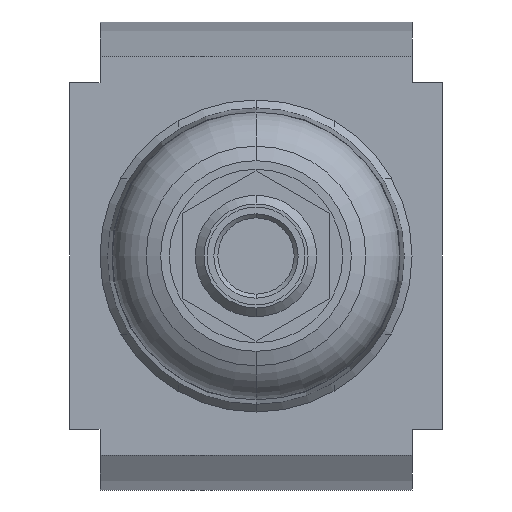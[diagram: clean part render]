
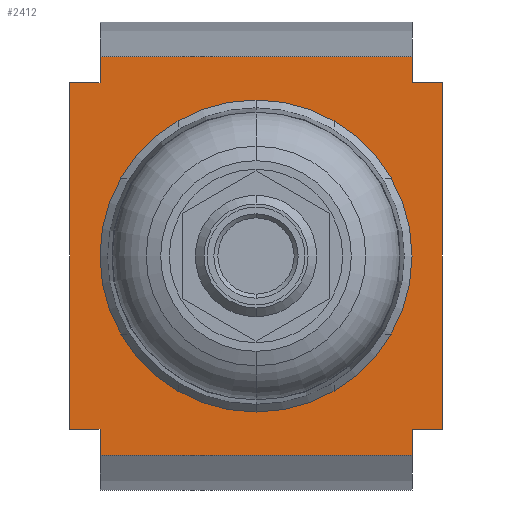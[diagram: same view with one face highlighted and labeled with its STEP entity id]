
A CAD part, front view. The second image highlights one B-rep face of the part: STEP entity #2412.
In plain terms, the highlighted planar face has unit normal (0, -1, 0).
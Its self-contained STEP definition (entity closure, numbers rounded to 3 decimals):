
#30=DIRECTION('',(0.,0.,-1.));
#31=VECTOR('',#30,3.);
#32=CARTESIAN_POINT('',(-18.,-25.,-20.));
#33=LINE('',#32,#31);
#64=DIRECTION('',(0.,0.,-1.));
#65=VECTOR('',#64,3.);
#66=CARTESIAN_POINT('',(-18.,-25.,23.));
#67=LINE('',#66,#65);
#136=DIRECTION('',(0.,0.,-1.));
#137=VECTOR('',#136,3.);
#138=CARTESIAN_POINT('',(18.,-25.,23.));
#139=LINE('',#138,#137);
#170=DIRECTION('',(0.,0.,-1.));
#171=VECTOR('',#170,3.);
#172=CARTESIAN_POINT('',(18.,-25.,-20.));
#173=LINE('',#172,#171);
#203=DIRECTION('',(1.,0.,0.));
#204=VECTOR('',#203,3.5);
#205=CARTESIAN_POINT('',(18.,-25.,20.));
#206=LINE('',#205,#204);
#243=DIRECTION('',(1.,0.,0.));
#244=VECTOR('',#243,3.5);
#245=CARTESIAN_POINT('',(-21.5,-25.,20.));
#246=LINE('',#245,#244);
#494=DIRECTION('',(1.,0.,0.));
#495=VECTOR('',#494,3.5);
#496=CARTESIAN_POINT('',(18.,-25.,-20.));
#497=LINE('',#496,#495);
#560=DIRECTION('',(1.,0.,0.));
#561=VECTOR('',#560,3.5);
#562=CARTESIAN_POINT('',(-21.5,-25.,-20.));
#563=LINE('',#562,#561);
#722=DIRECTION('',(0.,0.,1.));
#723=VECTOR('',#722,40.);
#724=CARTESIAN_POINT('',(21.5,-25.,-20.));
#725=LINE('',#724,#723);
#726=DIRECTION('',(0.,0.,1.));
#727=VECTOR('',#726,40.);
#728=CARTESIAN_POINT('',(-21.5,-25.,-20.));
#729=LINE('',#728,#727);
#730=DIRECTION('',(1.,0.,0.));
#731=VECTOR('',#730,36.);
#732=CARTESIAN_POINT('',(-18.,-25.,23.));
#733=LINE('',#732,#731);
#734=CARTESIAN_POINT('',(0.,-25.,0.));
#735=DIRECTION('',(0.,-1.,0.));
#736=DIRECTION('',(0.866,0.,-0.5));
#737=AXIS2_PLACEMENT_3D('',#734,#735,#736);
#739=DIRECTION('',(1.,0.,0.));
#740=VECTOR('',#739,1.166);
#741=CARTESIAN_POINT('',(14.422,-25.,9.));
#742=LINE('',#741,#740);
#743=CARTESIAN_POINT('',(0.,-25.,0.));
#744=DIRECTION('',(0.,1.,0.));
#745=DIRECTION('',(0.529,0.,0.848));
#746=AXIS2_PLACEMENT_3D('',#743,#744,#745);
#748=DIRECTION('',(0.,0.,-1.));
#749=VECTOR('',#748,1.166);
#750=CARTESIAN_POINT('',(9.,-25.,15.588));
#751=LINE('',#750,#749);
#752=CARTESIAN_POINT('',(0.,-25.,0.));
#753=DIRECTION('',(0.,-1.,0.));
#754=DIRECTION('',(0.5,0.,0.866));
#755=AXIS2_PLACEMENT_3D('',#752,#753,#754);
#757=CARTESIAN_POINT('',(0.,-25.,0.));
#758=DIRECTION('',(0.,-1.,0.));
#759=DIRECTION('',(0.,0.,1.));
#760=AXIS2_PLACEMENT_3D('',#757,#758,#759);
#762=DIRECTION('',(0.,0.,1.));
#763=VECTOR('',#762,1.166);
#764=CARTESIAN_POINT('',(-9.,-25.,14.422));
#765=LINE('',#764,#763);
#766=CARTESIAN_POINT('',(0.,-25.,0.));
#767=DIRECTION('',(0.,1.,0.));
#768=DIRECTION('',(-0.848,0.,0.529));
#769=AXIS2_PLACEMENT_3D('',#766,#767,#768);
#771=DIRECTION('',(1.,0.,0.));
#772=VECTOR('',#771,1.166);
#773=CARTESIAN_POINT('',(-15.588,-25.,9.));
#774=LINE('',#773,#772);
#775=CARTESIAN_POINT('',(0.,-25.,0.));
#776=DIRECTION('',(0.,-1.,0.));
#777=DIRECTION('',(-0.866,0.,0.5));
#778=AXIS2_PLACEMENT_3D('',#775,#776,#777);
#780=DIRECTION('',(-1.,0.,0.));
#781=VECTOR('',#780,1.166);
#782=CARTESIAN_POINT('',(-14.422,-25.,-9.));
#783=LINE('',#782,#781);
#784=CARTESIAN_POINT('',(0.,-25.,0.));
#785=DIRECTION('',(0.,1.,0.));
#786=DIRECTION('',(-0.529,0.,-0.848));
#787=AXIS2_PLACEMENT_3D('',#784,#785,#786);
#789=DIRECTION('',(0.,0.,1.));
#790=VECTOR('',#789,1.166);
#791=CARTESIAN_POINT('',(-9.,-25.,-15.588));
#792=LINE('',#791,#790);
#793=CARTESIAN_POINT('',(0.,-25.,0.));
#794=DIRECTION('',(0.,-1.,0.));
#795=DIRECTION('',(-0.5,0.,-0.866));
#796=AXIS2_PLACEMENT_3D('',#793,#794,#795);
#798=CARTESIAN_POINT('',(0.,-25.,0.));
#799=DIRECTION('',(0.,-1.,0.));
#800=DIRECTION('',(0.,0.,-1.));
#801=AXIS2_PLACEMENT_3D('',#798,#799,#800);
#803=DIRECTION('',(0.,0.,-1.));
#804=VECTOR('',#803,1.166);
#805=CARTESIAN_POINT('',(9.,-25.,-14.422));
#806=LINE('',#805,#804);
#807=CARTESIAN_POINT('',(0.,-25.,0.));
#808=DIRECTION('',(0.,1.,0.));
#809=DIRECTION('',(0.848,0.,-0.529));
#810=AXIS2_PLACEMENT_3D('',#807,#808,#809);
#812=DIRECTION('',(-1.,0.,0.));
#813=VECTOR('',#812,1.166);
#814=CARTESIAN_POINT('',(15.588,-25.,-9.));
#815=LINE('',#814,#813);
#820=DIRECTION('',(1.,0.,0.));
#821=VECTOR('',#820,36.);
#822=CARTESIAN_POINT('',(-18.,-25.,-23.));
#823=LINE('',#822,#821);
#1262=CARTESIAN_POINT('',(-18.,-25.,23.));
#1263=CARTESIAN_POINT('',(18.,-25.,23.));
#1264=VERTEX_POINT('',#1262);
#1265=VERTEX_POINT('',#1263);
#1266=CARTESIAN_POINT('',(-18.,-25.,-23.));
#1267=CARTESIAN_POINT('',(18.,-25.,-23.));
#1268=VERTEX_POINT('',#1266);
#1269=VERTEX_POINT('',#1267);
#1280=CARTESIAN_POINT('',(-21.5,-25.,-20.));
#1281=VERTEX_POINT('',#1280);
#1282=CARTESIAN_POINT('',(21.5,-25.,-20.));
#1284=VERTEX_POINT('',#1282);
#1304=CARTESIAN_POINT('',(-21.5,-25.,20.));
#1305=VERTEX_POINT('',#1304);
#1306=CARTESIAN_POINT('',(21.5,-25.,20.));
#1308=VERTEX_POINT('',#1306);
#1318=CARTESIAN_POINT('',(-18.,-25.,20.));
#1319=VERTEX_POINT('',#1318);
#1320=CARTESIAN_POINT('',(18.,-25.,20.));
#1321=VERTEX_POINT('',#1320);
#1322=CARTESIAN_POINT('',(-18.,-25.,-20.));
#1323=VERTEX_POINT('',#1322);
#1324=CARTESIAN_POINT('',(18.,-25.,-20.));
#1325=VERTEX_POINT('',#1324);
#1586=CARTESIAN_POINT('',(0.,-25.,18.));
#1587=VERTEX_POINT('',#1586);
#1588=CARTESIAN_POINT('',(0.,-25.,-18.));
#1589=VERTEX_POINT('',#1588);
#1590=CARTESIAN_POINT('',(-9.,-25.,-14.422));
#1591=CARTESIAN_POINT('',(-14.422,-25.,-9.));
#1592=VERTEX_POINT('',#1590);
#1593=VERTEX_POINT('',#1591);
#1594=CARTESIAN_POINT('',(-14.422,-25.,9.));
#1595=CARTESIAN_POINT('',(-9.,-25.,14.422));
#1596=VERTEX_POINT('',#1594);
#1597=VERTEX_POINT('',#1595);
#1598=CARTESIAN_POINT('',(14.422,-25.,-9.));
#1599=CARTESIAN_POINT('',(9.,-25.,-14.422));
#1600=VERTEX_POINT('',#1598);
#1601=VERTEX_POINT('',#1599);
#1602=CARTESIAN_POINT('',(9.,-25.,14.422));
#1603=CARTESIAN_POINT('',(14.422,-25.,9.));
#1604=VERTEX_POINT('',#1602);
#1605=VERTEX_POINT('',#1603);
#1623=CARTESIAN_POINT('',(-9.,-25.,-15.588));
#1625=VERTEX_POINT('',#1623);
#1627=CARTESIAN_POINT('',(-15.588,-25.,-9.));
#1629=VERTEX_POINT('',#1627);
#1631=CARTESIAN_POINT('',(-9.,-25.,15.588));
#1633=VERTEX_POINT('',#1631);
#1635=CARTESIAN_POINT('',(-15.588,-25.,9.));
#1637=VERTEX_POINT('',#1635);
#1639=CARTESIAN_POINT('',(9.,-25.,-15.588));
#1641=VERTEX_POINT('',#1639);
#1643=CARTESIAN_POINT('',(15.588,-25.,-9.));
#1645=VERTEX_POINT('',#1643);
#1647=CARTESIAN_POINT('',(15.588,-25.,9.));
#1649=VERTEX_POINT('',#1647);
#1651=CARTESIAN_POINT('',(9.,-25.,15.588));
#1653=VERTEX_POINT('',#1651);
#2352=CARTESIAN_POINT('',(-18.,-25.,23.));
#2353=DIRECTION('',(0.,-1.,0.));
#2354=DIRECTION('',(0.,0.,-1.));
#2355=AXIS2_PLACEMENT_3D('',#2352,#2353,#2354);
#2356=PLANE('',#2355);
#2357=ORIENTED_EDGE('',*,*,#1797,.T.);
#2358=ORIENTED_EDGE('',*,*,#1849,.T.);
#2359=ORIENTED_EDGE('',*,*,#2345,.F.);
#2360=ORIENTED_EDGE('',*,*,#2137,.F.);
#2361=ORIENTED_EDGE('',*,*,#1820,.T.);
#2363=ORIENTED_EDGE('',*,*,#2362,.F.);
#2364=ORIENTED_EDGE('',*,*,#1673,.F.);
#2365=ORIENTED_EDGE('',*,*,#2190,.F.);
#2367=ORIENTED_EDGE('',*,*,#2366,.T.);
#2368=ORIENTED_EDGE('',*,*,#1895,.T.);
#2369=ORIENTED_EDGE('',*,*,#1697,.F.);
#2371=ORIENTED_EDGE('',*,*,#2370,.T.);
#2372=EDGE_LOOP('',(#2357,#2358,#2359,#2360,#2361,#2363,#2364,#2365,#2367,#2368,
#2369,#2371));
#2373=FACE_OUTER_BOUND('',#2372,.F.);
#2375=ORIENTED_EDGE('',*,*,#2374,.T.);
#2377=ORIENTED_EDGE('',*,*,#2376,.F.);
#2379=ORIENTED_EDGE('',*,*,#2378,.F.);
#2381=ORIENTED_EDGE('',*,*,#2380,.F.);
#2383=ORIENTED_EDGE('',*,*,#2382,.T.);
#2385=ORIENTED_EDGE('',*,*,#2384,.T.);
#2387=ORIENTED_EDGE('',*,*,#2386,.F.);
#2389=ORIENTED_EDGE('',*,*,#2388,.F.);
#2391=ORIENTED_EDGE('',*,*,#2390,.F.);
#2393=ORIENTED_EDGE('',*,*,#2392,.T.);
#2395=ORIENTED_EDGE('',*,*,#2394,.F.);
#2397=ORIENTED_EDGE('',*,*,#2396,.F.);
#2399=ORIENTED_EDGE('',*,*,#2398,.F.);
#2401=ORIENTED_EDGE('',*,*,#2400,.T.);
#2403=ORIENTED_EDGE('',*,*,#2402,.T.);
#2405=ORIENTED_EDGE('',*,*,#2404,.F.);
#2407=ORIENTED_EDGE('',*,*,#2406,.F.);
#2409=ORIENTED_EDGE('',*,*,#2408,.F.);
#2410=EDGE_LOOP('',(#2375,#2377,#2379,#2381,#2383,#2385,#2387,#2389,#2391,#2393,
#2395,#2397,#2399,#2401,#2403,#2405,#2407,#2409));
#2411=FACE_BOUND('',#2410,.F.);
#2412=ADVANCED_FACE('',(#2373,#2411),#2356,.T.);
#738=CIRCLE('',#737,18.);
#747=CIRCLE('',#746,17.);
#756=CIRCLE('',#755,18.);
#761=CIRCLE('',#760,18.);
#770=CIRCLE('',#769,17.);
#779=CIRCLE('',#778,18.);
#788=CIRCLE('',#787,17.);
#797=CIRCLE('',#796,18.);
#802=CIRCLE('',#801,18.);
#811=CIRCLE('',#810,17.);
#1673=EDGE_CURVE('',#1323,#1268,#33,.T.);
#1697=EDGE_CURVE('',#1264,#1319,#67,.T.);
#1797=EDGE_CURVE('',#1265,#1321,#139,.T.);
#1820=EDGE_CURVE('',#1325,#1269,#173,.T.);
#1849=EDGE_CURVE('',#1321,#1308,#206,.T.);
#1895=EDGE_CURVE('',#1305,#1319,#246,.T.);
#2137=EDGE_CURVE('',#1325,#1284,#497,.T.);
#2190=EDGE_CURVE('',#1281,#1323,#563,.T.);
#2345=EDGE_CURVE('',#1284,#1308,#725,.T.);
#2362=EDGE_CURVE('',#1268,#1269,#823,.T.);
#2366=EDGE_CURVE('',#1281,#1305,#729,.T.);
#2370=EDGE_CURVE('',#1264,#1265,#733,.T.);
#2374=EDGE_CURVE('',#1645,#1649,#738,.T.);
#2376=EDGE_CURVE('',#1605,#1649,#742,.T.);
#2378=EDGE_CURVE('',#1604,#1605,#747,.T.);
#2380=EDGE_CURVE('',#1653,#1604,#751,.T.);
#2382=EDGE_CURVE('',#1653,#1587,#756,.T.);
#2384=EDGE_CURVE('',#1587,#1633,#761,.T.);
#2386=EDGE_CURVE('',#1597,#1633,#765,.T.);
#2388=EDGE_CURVE('',#1596,#1597,#770,.T.);
#2390=EDGE_CURVE('',#1637,#1596,#774,.T.);
#2392=EDGE_CURVE('',#1637,#1629,#779,.T.);
#2394=EDGE_CURVE('',#1593,#1629,#783,.T.);
#2396=EDGE_CURVE('',#1592,#1593,#788,.T.);
#2398=EDGE_CURVE('',#1625,#1592,#792,.T.);
#2400=EDGE_CURVE('',#1625,#1589,#797,.T.);
#2402=EDGE_CURVE('',#1589,#1641,#802,.T.);
#2404=EDGE_CURVE('',#1601,#1641,#806,.T.);
#2406=EDGE_CURVE('',#1600,#1601,#811,.T.);
#2408=EDGE_CURVE('',#1645,#1600,#815,.T.);
